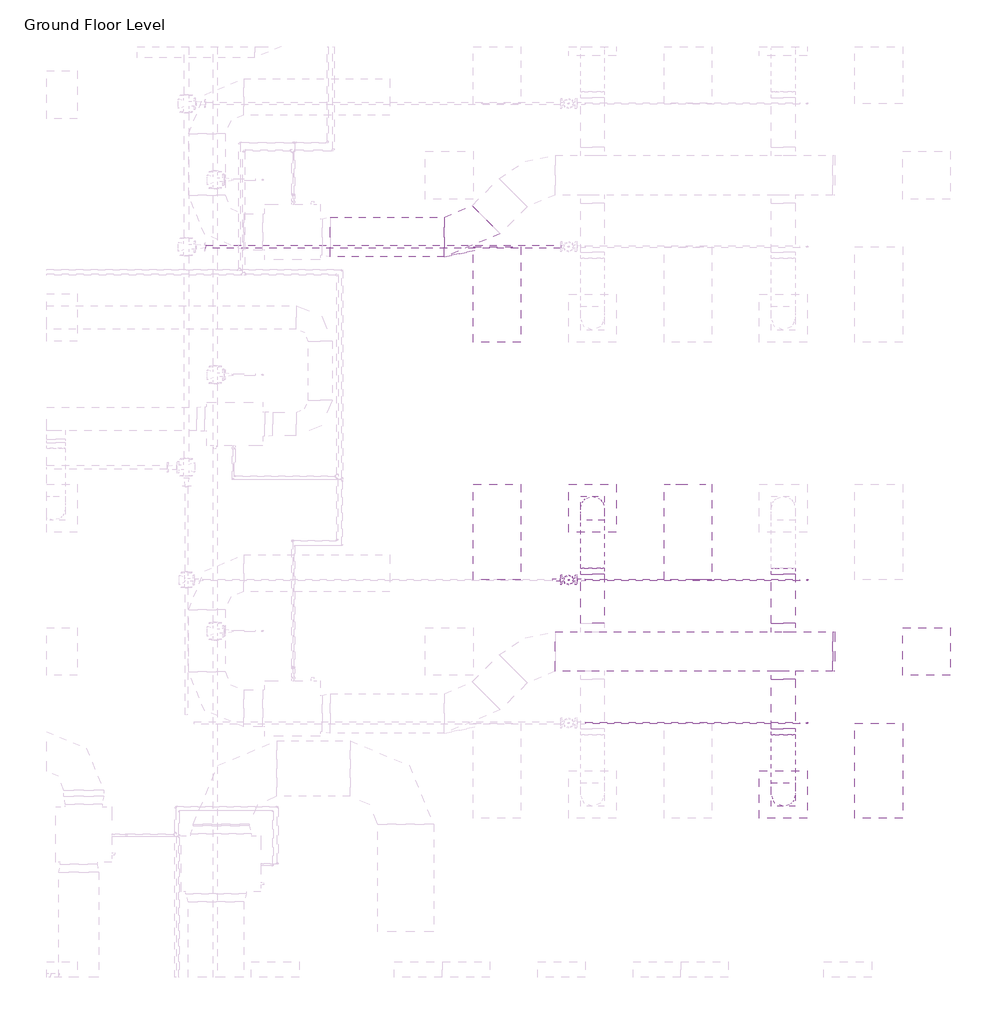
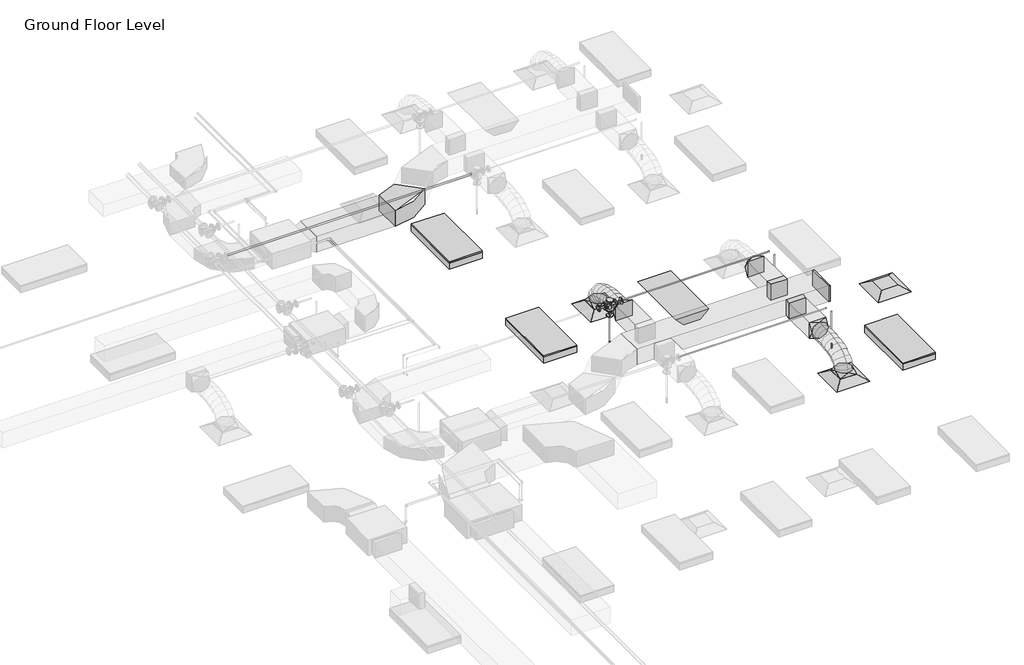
# One storey, part 37 of 74: 9 duct fittings, 7 duct segments, 6 pipe segments, 4 light fixtures, 4 pipe fittings, 3 air terminals, 3 fire suppression terminals.
"""IFC4 building model written with IfcOpenShell, lengths in millimetres."""

from ifc_helpers import new_model, si_unit, point, frame, frame_2d, origin, place, context, project, spatial, polyline, circle_curve, ellipse_curve, trimmed, segment, composite_curve, outline, extrude, transform, mapped, element, save
from ifc_brep_helpers import plane_surface, cylinder_surface, advanced_brep
from components import m_return_diffuser_600_x_600_face_300_x_300_connection_ff221211, m_rectangular_elbow_radius_1_5_w_acc56c25, m_rectangular_endcap_standard_72d4d00d, m_rectangular_takeoff_standard_cb0ccb98, m_rectangular_takeoff_standard_2be5eba1, m_rectangular_to_round_transition_angle_45_degree_641efff0, m_sprinkler_dry_pendent_hosted_15_mm_dry_pendent_9bda8e11, m_emergency_recessed_lighting_fixture_600x1200_277_5b10b25d, m_troffer_light_parabolic_rectangular1_0600x1200mm_4_lamp_86473d4a, m_reducer_flanged_cs_class_150_standard_ccf252ad, m_tee_round_base_flanged_cs_class_150_standard_7e5987a1

model = new_model("IFC4")

# Units and contexts
model_context = context("Model", 3, world=origin())
ifc_project = project(units=[si_unit("LENGTHUNIT", "METRE", prefix="MILLI")], contexts=[model_context])

# Site, building, storey
site = spatial("IfcSite", under=ifc_project)
building = spatial("IfcBuilding", under=site)
storey = spatial("IfcBuildingStorey", under=building, Name="Ground Floor Level", Elevation=900.0)

# Air terminals
placement = place(None, origin())
m_return_diffuser_600_x_600_face_300_x_300_connection_shape = m_return_diffuser_600_x_600_face_300_x_300_connection_ff221211(model_context)
element("IfcAirTerminal", 1, ObjectType="M_Return Diffuser : 600 x 600 Face 300 x 300 Connection", at=placement, inside=storey, context=model_context, shape_type="MappedRepresentation", body=[
    mapped(m_return_diffuser_600_x_600_face_300_x_300_connection_shape, transform((14942.7672395, -5264.7846466, 3650.0), x_axis=(1.0, 0.0, 0.0), y_axis=(0.0, 1.0, 0.0), z_axis=(0.0, 0.0, 1.0))),
])
element("IfcAirTerminal", 2, ObjectType="M_Supply Diffuser : 600 x 600 Face 300 x 300 Connection", at=placement, inside=storey, context=model_context, shape_type="MappedRepresentation", body=[
    mapped(m_return_diffuser_600_x_600_face_300_x_300_connection_shape, transform((10742.7672395, -3464.7846466, 3650.0), x_axis=(1.0, 0.0, 0.0), y_axis=(0.0, 1.0, 0.0), z_axis=(0.0, 0.0, 1.0))),
])
element("IfcAirTerminal", 3, ObjectType="M_Supply Diffuser : 600 x 600 Face 300 x 300 Connection", at=placement, inside=storey, context=model_context, shape_type="MappedRepresentation", body=[
    mapped(m_return_diffuser_600_x_600_face_300_x_300_connection_shape, transform((13142.7672395, -7064.7846466, 3650.0), x_axis=(1.0, 0.0, 0.0), y_axis=(0.0, 1.0, 0.0), z_axis=(0.0, 0.0, 1.0))),
])

# Duct fittings
m_rectangular_elbow_radius_1_5_w_shape = m_rectangular_elbow_radius_1_5_w_acc56c25(model_context)
element("IfcDuctFitting", 4, ObjectType="M_Rectangular Elbow - Radius : 1.5 W", at=placement, inside=storey, context=model_context, shape_type="MappedRepresentation", body=[
    mapped(m_rectangular_elbow_radius_1_5_w_shape, transform((9187.6927358, -53.8220473, 4100.0047224), x_axis=(0.9999999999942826, 0.0, -3.3815582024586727e-06), y_axis=(-9.063610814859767e-12, 0.9999999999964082, -2.680306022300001e-06), z_axis=(3.3815582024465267e-06, 2.6803060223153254e-06, 0.9999999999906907))),
])
m_rectangular_endcap_standard_shape = m_rectangular_endcap_standard_72d4d00d(model_context)
element("IfcDuctFitting", 5, ObjectType="M_Rectangular Endcap : Standard", at=placement, inside=storey, context=model_context, shape_type="MappedRepresentation", body=[
    mapped(m_rectangular_endcap_standard_shape, transform((13766.7301365, -5264.7846466, 4100.0), x_axis=(1.0, 0.0, 0.0), y_axis=(0.0, 1.0, 0.0), z_axis=(0.0, 0.0, 1.0))),
])
m_rectangular_takeoff_standard_shape = m_rectangular_takeoff_standard_cb0ccb98(model_context)
element("IfcDuctFitting", 6, ObjectType="M_Rectangular Takeoff : Standard", at=placement, inside=storey, context=model_context, shape_type="MappedRepresentation", body=[
    mapped(m_rectangular_takeoff_standard_shape, transform((13142.7672395, -5014.7846466, 4100.0), x_axis=(0.0, 1.0, 0.0), y_axis=(1.0, 0.0, 0.0), z_axis=(0.0, 0.0, -1.0))),
])
m_rectangular_takeoff_standard_2_shape = m_rectangular_takeoff_standard_2be5eba1(model_context)
element("IfcDuctFitting", 7, ObjectType="M_Rectangular Takeoff : Standard", at=placement, inside=storey, context=model_context, shape_type="MappedRepresentation", body=[
    mapped(m_rectangular_takeoff_standard_2_shape, transform((13142.7672395, -5514.7846466, 4100.0), x_axis=(0.0, -1.0, 0.0), y_axis=(-1.0, 0.0, 0.0), z_axis=(0.0, 0.0, -1.0))),
])
m_rectangular_to_round_transition_angle_45_degree_shape = m_rectangular_to_round_transition_angle_45_degree_641efff0(model_context)
element("IfcDuctFitting", 8, ObjectType="M_Rectangular to Round Transition - Angle : 45 Degree", at=placement, inside=storey, context=model_context, shape_type="MappedRepresentation", body=[
    mapped(m_rectangular_to_round_transition_angle_45_degree_shape, transform((13142.7672395, -7064.7846466, 3751.6), x_axis=(0.0, 0.0, 1.0), y_axis=(-1.0, 0.0, 0.0), z_axis=(0.0, -1.0, 0.0))),
])
element("IfcDuctFitting", 9, ObjectType="M_Rectangular to Round Transition - Angle : 45 Degree", at=placement, inside=storey, context=model_context, shape_type="MappedRepresentation", body=[
    mapped(m_rectangular_to_round_transition_angle_45_degree_shape, transform((13142.7672395, -6237.4487153, 4100.0), x_axis=(0.0, -1.0, 0.0), y_axis=(1.0, 0.0, 0.0), z_axis=(0.0, 0.0, 1.0))),
])
element("IfcDuctFitting", 10, ObjectType="M_Rectangular to Round Transition - Angle : 45 Degree", at=placement, inside=storey, context=model_context, shape_type="MappedRepresentation", body=[
    mapped(m_rectangular_to_round_transition_angle_45_degree_shape, transform((13142.7672395, -4292.1205779, 4100.0), x_axis=(0.0, 1.0, 0.0), y_axis=(-1.0, 0.0, 0.0), z_axis=(0.0, 0.0, 1.0))),
])
element("IfcDuctFitting", 11, ObjectType="M_Rectangular to Round Transition - Angle : 45 Degree", at=placement, inside=storey, context=model_context, shape_type="MappedRepresentation", body=[
    mapped(m_rectangular_to_round_transition_angle_45_degree_shape, transform((10742.7672395, -3464.7846466, 3751.6), x_axis=(0.0, 0.0, 1.0), y_axis=(-1.0, 0.0, 0.0), z_axis=(0.0, -1.0, 0.0))),
])
element("IfcDuctFitting", 12, ObjectType="M_Rectangular to Round Transition - Angle : 45 Degree", at=placement, inside=storey, context=model_context, shape_type="MappedRepresentation", body=[
    mapped(m_rectangular_to_round_transition_angle_45_degree_shape, transform((10742.7672395, -4292.1205779, 4100.0), x_axis=(0.0, 1.0, 0.0), y_axis=(-1.0, 0.0, 0.0), z_axis=(0.0, 0.0, 1.0))),
])

# Duct segments
element("IfcDuctSegment", 13, ObjectType="Flex - Round", at=placement, inside=storey, context=model_context, shape_type="AdvancedBrep", body=[
    advanced_brep(
    [(13292.7672395, -7064.7846466, 3826.6), (13142.7672395, -7214.7846466, 3826.6), (12992.7672395, -7064.7846466, 3826.6), (13142.7672395, -6914.7846466, 3826.6), (13292.7672395, -7064.7846466, 3857.9377114), (13142.7672395, -7214.7846466, 3883.5809337), (12992.7672395, -7064.7846466, 3857.9377114), (13142.7672395, -6914.7846466, 3832.2944892), (13292.7672395, -7047.7687141, 3906.2505728), (13142.7672395, -7181.506693, 3978.0660967), (12992.7672395, -7047.7687141, 3906.2505728), (13142.7672395, -6914.0307351, 3834.435049), (13292.7672395, -7000.5848337, 3968.7113131), (13142.7672395, -7104.7907329, 4079.6206026), (12992.7672395, -7000.5848337, 3968.7113131), (13142.7672395, -6896.3789345, 3857.8020236), (13292.7672395, -6929.0288815, 4016.0700639), (13142.7672395, -6997.9629372, 4150.3237489), (12992.7672395, -6929.0288815, 4016.0700639), (13142.7672395, -6860.0948259, 3881.8163788), (13292.7672395, -6838.8967335, 4050.4146682), (13142.7672395, -6882.4574967, 4194.3367758), (12992.7672395, -6838.8967335, 4050.4146682), (13142.7672395, -6795.3359704, 3906.4925606), (13292.7672395, -6735.9842657, 4073.8329691), (13142.7672395, -6762.5451897, 4221.6234841), (12992.7672395, -6735.9842657, 4073.8329691), (13142.7672395, -6709.4233417, 3926.0424542), (13292.7672395, -6626.087354, 4088.4128097), (13142.7672395, -6641.2382563, 4237.7170733), (12992.7672395, -6626.087354, 4088.4128097), (13142.7672395, -6610.9364516, 3939.1085462), (13292.7672395, -6515.0018743, 4096.242033), (13142.7672395, -6522.5072025, 4246.085151), (12992.7672395, -6515.0018743, 4096.242033), (13142.7672395, -6507.4965462, 3946.398915), (13292.7672395, -6408.5237028, 4099.4084821), (13142.7672395, -6411.2151959, 4249.394754), (12992.7672395, -6408.5237028, 4099.4084821), (13142.7672395, -6405.8322097, 3949.4222102), (13292.7672395, -6312.4487153, 4100.0), (13142.7672395, -6311.5252075, 3950.0028429), (12992.7672395, -6312.4487153, 4100.0), (13142.7672395, -6313.3722232, 4249.9971571)],
    [
        (0, 1, circle_curve(frame((13142.7672395, -7064.7846466, 3826.6), z_axis=(0.0, 0.0, -1.0), x_axis=(1.0, 0.0, 0.0)), 150.0)),
        (1, 2, circle_curve(frame((13142.7672395, -7064.7846466, 3826.6), z_axis=(0.0, 0.0, -1.0), x_axis=(1.0, 0.0, 0.0)), 150.0)),
        (2, 3, circle_curve(frame((13142.7672395, -7064.7846466, 3826.6), z_axis=(0.0, 0.0, -1.0), x_axis=(1.0, 0.0, 0.0)), 150.0)),
        (3, 0, circle_curve(frame((13142.7672395, -7064.7846466, 3826.6), z_axis=(0.0, 0.0, -1.0), x_axis=(1.0, 0.0, 0.0)), 150.0)),
        (0, 4),
        (4, 5, ellipse_curve(frame((13142.7672395, -7064.7846466, 3857.9377114), z_axis=(0.0, -0.16851014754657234, -0.9856999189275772), x_axis=(0.0, 0.9856999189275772, -0.1685101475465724)), 152.176131, 150.0)),
        (5, 1),
        (5, 6, ellipse_curve(frame((13142.7672395, -7064.7846466, 3857.9377114), z_axis=(0.0, -0.16851014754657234, -0.9856999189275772), x_axis=(0.0, 0.9856999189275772, -0.1685101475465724)), 152.176131, 150.0)),
        (6, 2),
        (6, 7, ellipse_curve(frame((13142.7672395, -7064.7846466, 3857.9377114), z_axis=(0.0, -0.16851014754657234, -0.9856999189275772), x_axis=(0.0, 0.9856999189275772, -0.1685101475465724)), 152.176131, 150.0)),
        (7, 3),
        (7, 4, ellipse_curve(frame((13142.7672395, -7064.7846466, 3857.9377114), z_axis=(0.0, -0.16851014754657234, -0.9856999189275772), x_axis=(0.0, 0.9856999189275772, -0.1685101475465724)), 152.176131, 150.0)),
        (4, 8),
        (8, 9, ellipse_curve(frame((13142.7672395, -7047.7687141, 3906.2505728), z_axis=(0.0, -0.47309225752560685, -0.8810128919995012), x_axis=(0.0, 0.881012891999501, -0.4730922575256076)), 151.8002519, 150.0)),
        (9, 5),
        (9, 10, ellipse_curve(frame((13142.7672395, -7047.7687141, 3906.2505728), z_axis=(0.0, -0.47309225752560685, -0.8810128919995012), x_axis=(0.0, 0.881012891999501, -0.4730922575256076)), 151.8002519, 150.0)),
        (10, 6),
        (10, 11, ellipse_curve(frame((13142.7672395, -7047.7687141, 3906.2505728), z_axis=(0.0, -0.47309225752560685, -0.8810128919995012), x_axis=(0.0, 0.881012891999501, -0.4730922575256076)), 151.8002519, 150.0)),
        (11, 7),
        (11, 8, ellipse_curve(frame((13142.7672395, -7047.7687141, 3906.2505728), z_axis=(0.0, -0.47309225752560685, -0.8810128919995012), x_axis=(0.0, 0.881012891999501, -0.4730922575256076)), 151.8002519, 150.0)),
        (8, 12),
        (12, 13, ellipse_curve(frame((13142.7672395, -7000.5848337, 3968.7113131), z_axis=(0.0, -0.7287877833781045, -0.6847396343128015), x_axis=(0.0, 0.6847396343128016, -0.7287877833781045)), 152.1832446, 150.0)),
        (13, 9),
        (13, 14, ellipse_curve(frame((13142.7672395, -7000.5848337, 3968.7113131), z_axis=(0.0, -0.7287877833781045, -0.6847396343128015), x_axis=(0.0, 0.6847396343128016, -0.7287877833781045)), 152.1832446, 150.0)),
        (14, 10),
        (14, 15, ellipse_curve(frame((13142.7672395, -7000.5848337, 3968.7113131), z_axis=(0.0, -0.7287877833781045, -0.6847396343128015), x_axis=(0.0, 0.6847396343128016, -0.7287877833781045)), 152.1832446, 150.0)),
        (15, 11),
        (15, 12, ellipse_curve(frame((13142.7672395, -7000.5848337, 3968.7113131), z_axis=(0.0, -0.7287877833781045, -0.6847396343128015), x_axis=(0.0, 0.6847396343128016, -0.7287877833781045)), 152.1832446, 150.0)),
        (12, 16),
        (16, 17, ellipse_curve(frame((13142.7672395, -6929.0288815, 4016.0700639), z_axis=(0.0, -0.8895859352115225, -0.4567678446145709), x_axis=(0.0, 0.45676784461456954, -0.8895859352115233)), 150.91705, 150.0)),
        (17, 13),
        (17, 18, ellipse_curve(frame((13142.7672395, -6929.0288815, 4016.0700639), z_axis=(0.0, -0.8895859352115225, -0.4567678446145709), x_axis=(0.0, 0.45676784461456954, -0.8895859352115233)), 150.91705, 150.0)),
        (18, 14),
        (18, 19, ellipse_curve(frame((13142.7672395, -6929.0288815, 4016.0700639), z_axis=(0.0, -0.8895859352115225, -0.4567678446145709), x_axis=(0.0, 0.45676784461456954, -0.8895859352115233)), 150.91705, 150.0)),
        (19, 15),
        (19, 16, ellipse_curve(frame((13142.7672395, -6929.0288815, 4016.0700639), z_axis=(0.0, -0.8895859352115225, -0.4567678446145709), x_axis=(0.0, 0.45676784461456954, -0.8895859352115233)), 150.91705, 150.0)),
        (16, 20),
        (20, 21, ellipse_curve(frame((13142.7672395, -6838.8967335, 4050.4146682), z_axis=(0.0, -0.9571203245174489, -0.2896906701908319), x_axis=(0.0, 0.2896906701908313, -0.9571203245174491)), 150.369921, 150.0)),
        (21, 17),
        (21, 22, ellipse_curve(frame((13142.7672395, -6838.8967335, 4050.4146682), z_axis=(0.0, -0.9571203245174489, -0.2896906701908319), x_axis=(0.0, 0.2896906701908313, -0.9571203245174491)), 150.369921, 150.0)),
        (22, 18),
        (22, 23, ellipse_curve(frame((13142.7672395, -6838.8967335, 4050.4146682), z_axis=(0.0, -0.9571203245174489, -0.2896906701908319), x_axis=(0.0, 0.2896906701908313, -0.9571203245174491)), 150.369921, 150.0)),
        (23, 19),
        (23, 20, ellipse_curve(frame((13142.7672395, -6838.8967335, 4050.4146682), z_axis=(0.0, -0.9571203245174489, -0.2896906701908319), x_axis=(0.0, 0.2896906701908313, -0.9571203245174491)), 150.369921, 150.0)),
        (20, 24),
        (24, 25, ellipse_curve(frame((13142.7672395, -6735.9842657, 4073.8329691), z_axis=(0.0, -0.9842313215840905, -0.17688613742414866), x_axis=(0.0, 0.17688613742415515, -0.9842313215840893)), 150.1583131, 150.0)),
        (25, 21),
        (25, 26, ellipse_curve(frame((13142.7672395, -6735.9842657, 4073.8329691), z_axis=(0.0, -0.9842313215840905, -0.17688613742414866), x_axis=(0.0, 0.17688613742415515, -0.9842313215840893)), 150.1583131, 150.0)),
        (26, 22),
        (26, 27, ellipse_curve(frame((13142.7672395, -6735.9842657, 4073.8329691), z_axis=(0.0, -0.9842313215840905, -0.17688613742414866), x_axis=(0.0, 0.17688613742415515, -0.9842313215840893)), 150.1583131, 150.0)),
        (27, 23),
        (27, 24, ellipse_curve(frame((13142.7672395, -6735.9842657, 4073.8329691), z_axis=(0.0, -0.9842313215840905, -0.17688613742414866), x_axis=(0.0, 0.17688613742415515, -0.9842313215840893)), 150.1583131, 150.0)),
        (24, 28),
        (28, 29, ellipse_curve(frame((13142.7672395, -6626.087354, 4088.4128097), z_axis=(0.0, -0.9948906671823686, -0.10095821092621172), x_axis=(0.0, 0.10095821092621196, -0.9948906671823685)), 150.0710264, 150.0)),
        (29, 25),
        (29, 30, ellipse_curve(frame((13142.7672395, -6626.087354, 4088.4128097), z_axis=(0.0, -0.9948906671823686, -0.10095821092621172), x_axis=(0.0, 0.10095821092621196, -0.9948906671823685)), 150.0710264, 150.0)),
        (30, 26),
        (30, 31, ellipse_curve(frame((13142.7672395, -6626.087354, 4088.4128097), z_axis=(0.0, -0.9948906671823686, -0.10095821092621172), x_axis=(0.0, 0.10095821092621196, -0.9948906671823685)), 150.0710264, 150.0)),
        (31, 27),
        (31, 28, ellipse_curve(frame((13142.7672395, -6626.087354, 4088.4128097), z_axis=(0.0, -0.9948906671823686, -0.10095821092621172), x_axis=(0.0, 0.10095821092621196, -0.9948906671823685)), 150.0710264, 150.0)),
        (28, 32),
        (32, 33, ellipse_curve(frame((13142.7672395, -6515.0018743, 4096.242033), z_axis=(0.0, -0.9987479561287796, -0.050025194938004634), x_axis=(0.0, 0.050025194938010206, -0.9987479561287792)), 150.0309634, 150.0)),
        (33, 29),
        (33, 34, ellipse_curve(frame((13142.7672395, -6515.0018743, 4096.242033), z_axis=(0.0, -0.9987479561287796, -0.050025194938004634), x_axis=(0.0, 0.050025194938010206, -0.9987479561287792)), 150.0309634, 150.0)),
        (34, 30),
        (34, 35, ellipse_curve(frame((13142.7672395, -6515.0018743, 4096.242033), z_axis=(0.0, -0.9987479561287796, -0.050025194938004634), x_axis=(0.0, 0.050025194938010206, -0.9987479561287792)), 150.0309634, 150.0)),
        (35, 31),
        (35, 32, ellipse_curve(frame((13142.7672395, -6515.0018743, 4096.242033), z_axis=(0.0, -0.9987479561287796, -0.050025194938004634), x_axis=(0.0, 0.050025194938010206, -0.9987479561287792)), 150.0309634, 150.0)),
        (32, 36),
        (36, 37, ellipse_curve(frame((13142.7672395, -6408.5237028, 4099.4084821), z_axis=(0.0, -0.9998390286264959, -0.01794204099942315), x_axis=(0.0, 0.01794204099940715, -0.9998390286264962)), 150.0104193, 150.0)),
        (37, 33),
        (37, 38, ellipse_curve(frame((13142.7672395, -6408.5237028, 4099.4084821), z_axis=(0.0, -0.9998390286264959, -0.01794204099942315), x_axis=(0.0, 0.01794204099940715, -0.9998390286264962)), 150.0104193, 150.0)),
        (38, 34),
        (38, 39, ellipse_curve(frame((13142.7672395, -6408.5237028, 4099.4084821), z_axis=(0.0, -0.9998390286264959, -0.01794204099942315), x_axis=(0.0, 0.01794204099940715, -0.9998390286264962)), 150.0104193, 150.0)),
        (39, 35),
        (39, 36, ellipse_curve(frame((13142.7672395, -6408.5237028, 4099.4084821), z_axis=(0.0, -0.9998390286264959, -0.01794204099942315), x_axis=(0.0, 0.01794204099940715, -0.9998390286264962)), 150.0104193, 150.0)),
        (40, 41, circle_curve(frame((13142.7672395, -6312.4487153, 4100.0), z_axis=(0.0, 0.9999810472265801, 0.0061567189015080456), x_axis=(1.0, 0.0, 0.0)), 150.0)),
        (41, 42, circle_curve(frame((13142.7672395, -6312.4487153, 4100.0), z_axis=(0.0, 0.9999810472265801, 0.0061567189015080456), x_axis=(1.0, 0.0, 0.0)), 150.0)),
        (42, 43, circle_curve(frame((13142.7672395, -6312.4487153, 4100.0), z_axis=(0.0, 0.9999810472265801, 0.0061567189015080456), x_axis=(1.0, 0.0, 0.0)), 150.0)),
        (43, 40, circle_curve(frame((13142.7672395, -6312.4487153, 4100.0), z_axis=(0.0, 0.9999810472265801, 0.0061567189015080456), x_axis=(1.0, 0.0, 0.0)), 150.0)),
        (36, 40),
        (43, 37),
        (42, 38),
        (41, 39),
    ],
    [
        plane_surface(frame((13142.7672395, -7214.7846466, 3826.6), z_axis=(0.0, 0.0, -1.0), x_axis=(1.0, 0.0, 0.0))),
        cylinder_surface(frame((13142.7672395, -7064.7846466, 3826.6), z_axis=(0.0, 0.0, -1.0), x_axis=(1.0, 0.0, 0.0)), 150.0),
        cylinder_surface(frame((13142.7672395, -7064.7846466, 3857.9377114), z_axis=(0.0, -0.3322008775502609, -0.9432086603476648), x_axis=(1.0, 0.0, 0.0)), 150.0),
        cylinder_surface(frame((13142.7672395, -7047.7687141, 3906.2505728), z_axis=(0.0, -0.602762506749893, -0.7979206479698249), x_axis=(1.0, 0.0, 0.0)), 150.0),
        cylinder_surface(frame((13142.7672395, -7000.5848337, 3968.7113131), z_axis=(0.0, -0.833902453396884, -0.5519118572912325), x_axis=(1.0, 0.0, 0.0)), 150.0),
        cylinder_surface(frame((13142.7672395, -6929.0288815, 4016.0700639), z_axis=(0.0, -0.934458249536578, -0.35607271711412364), x_axis=(1.0, 0.0, 0.0)), 150.0),
        cylinder_surface(frame((13142.7672395, -6838.8967335, 4050.4146682), z_axis=(0.0, -0.9750732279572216, -0.22188330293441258), x_axis=(1.0, 0.0, 0.0)), 150.0),
        cylinder_surface(frame((13142.7672395, -6735.9842657, 4073.8329691), z_axis=(0.0, -0.9913140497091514, -0.1315159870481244), x_axis=(1.0, 0.0, 0.0)), 150.0),
        cylinder_surface(frame((13142.7672395, -6626.087354, 4088.4128097), z_axis=(0.0, -0.9975255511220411, -0.07030487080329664), x_axis=(1.0, 0.0, 0.0)), 150.0),
        cylinder_surface(frame((13142.7672395, -6515.0018743, 4096.242033), z_axis=(0.0, -0.9995581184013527, -0.029724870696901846), x_axis=(1.0, 0.0, 0.0)), 150.0),
        plane_surface(frame((13142.7672395, -6313.3722232, 4249.9971571), z_axis=(0.0, 0.9999810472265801, 0.0061567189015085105), x_axis=(1.0, 0.0, 0.0))),
        cylinder_surface(frame((13142.7672395, -6408.5237028, 4099.4084821), z_axis=(0.0, -0.9999810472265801, -0.0061567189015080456), x_axis=(1.0, 0.0, 0.0)), 150.0),
    ],
    [
        (0, [[1, 2, 3, 4]]),
        (1, [[-1, 5, 6, 7]]),
        (1, [[-2, -7, 8, 9]]),
        (1, [[-3, -9, 10, 11]]),
        (1, [[-4, -11, 12, -5]]),
        (2, [[-6, 13, 14, 15]]),
        (2, [[-8, -15, 16, 17]]),
        (2, [[-10, -17, 18, 19]]),
        (2, [[-12, -19, 20, -13]]),
        (3, [[-14, 21, 22, 23]]),
        (3, [[-16, -23, 24, 25]]),
        (3, [[-18, -25, 26, 27]]),
        (3, [[-20, -27, 28, -21]]),
        (4, [[-22, 29, 30, 31]]),
        (4, [[-24, -31, 32, 33]]),
        (4, [[-26, -33, 34, 35]]),
        (4, [[-28, -35, 36, -29]]),
        (5, [[-30, 37, 38, 39]]),
        (5, [[-32, -39, 40, 41]]),
        (5, [[-34, -41, 42, 43]]),
        (5, [[-36, -43, 44, -37]]),
        (6, [[-38, 45, 46, 47]]),
        (6, [[-40, -47, 48, 49]]),
        (6, [[-42, -49, 50, 51]]),
        (6, [[-44, -51, 52, -45]]),
        (7, [[-46, 53, 54, 55]]),
        (7, [[-48, -55, 56, 57]]),
        (7, [[-50, -57, 58, 59]]),
        (7, [[-52, -59, 60, -53]]),
        (8, [[-54, 61, 62, 63]]),
        (8, [[-56, -63, 64, 65]]),
        (8, [[-58, -65, 66, 67]]),
        (8, [[-60, -67, 68, -61]]),
        (9, [[-62, 69, 70, 71]]),
        (9, [[-64, -71, 72, 73]]),
        (9, [[-66, -73, 74, 75]]),
        (9, [[-68, -75, 76, -69]]),
        (10, [[77, 78, 79, 80]]),
        (11, [[-70, 81, -80, 82]]),
        (11, [[-72, -82, -79, 83]]),
        (11, [[-74, -83, -78, 84]]),
        (11, [[-76, -84, -77, -81]]),
    ],
),
])
element("IfcDuctSegment", 14, ObjectType="Flex - Round", at=placement, inside=storey, context=model_context, shape_type="AdvancedBrep", body=[
    advanced_brep(
    [(10892.7672395, -3464.7846466, 3826.6), (10742.7672395, -3614.7846466, 3826.6), (10592.7672395, -3464.7846466, 3826.6), (10742.7672395, -3314.7846466, 3826.6), (10892.7672395, -3464.7846466, 3857.9377114), (10742.7672395, -3614.7846466, 3832.2944892), (10592.7672395, -3464.7846466, 3857.9377114), (10742.7672395, -3314.7846466, 3883.5809337), (10892.7672395, -3481.8005792, 3906.2505728), (10742.7672395, -3615.5385581, 3834.435049), (10592.7672395, -3481.8005792, 3906.2505728), (10742.7672395, -3348.0626002, 3978.0660967), (10892.7672395, -3528.9844595, 3968.7113131), (10742.7672395, -3633.1903588, 3857.8020236), (10592.7672395, -3528.9844595, 3968.7113131), (10742.7672395, -3424.7785603, 4079.6206026), (10892.7672395, -3600.5404117, 4016.0700639), (10742.7672395, -3669.4744673, 3881.8163788), (10592.7672395, -3600.5404117, 4016.0700639), (10742.7672395, -3531.606356, 4150.3237489), (10892.7672395, -3690.6725597, 4050.4146682), (10742.7672395, -3734.2333228, 3906.4925606), (10592.7672395, -3690.6725597, 4050.4146682), (10742.7672395, -3647.1117965, 4194.3367758), (10892.7672395, -3793.5850275, 4073.8329691), (10742.7672395, -3820.1459515, 3926.0424542), (10592.7672395, -3793.5850275, 4073.8329691), (10742.7672395, -3767.0241035, 4221.6234841), (10892.7672395, -3903.4819392, 4088.4128097), (10742.7672395, -3918.6328416, 3939.1085462), (10592.7672395, -3903.4819392, 4088.4128097), (10742.7672395, -3888.3310369, 4237.7170733), (10892.7672395, -4014.5674189, 4096.242033), (10742.7672395, -4022.0727471, 3946.398915), (10592.7672395, -4014.5674189, 4096.242033), (10742.7672395, -4007.0620907, 4246.085151), (10892.7672395, -4121.0455904, 4099.4084821), (10742.7672395, -4123.7370835, 3949.4222102), (10592.7672395, -4121.0455904, 4099.4084821), (10742.7672395, -4118.3540973, 4249.394754), (10892.7672395, -4217.1205779, 4100.0), (10742.7672395, -4216.1970701, 4249.9971571), (10592.7672395, -4217.1205779, 4100.0), (10742.7672395, -4218.0440857, 3950.0028429)],
    [
        (0, 1, circle_curve(frame((10742.7672395, -3464.7846466, 3826.6), z_axis=(0.0, 0.0, -1.0), x_axis=(1.0, 0.0, 0.0)), 150.0)),
        (1, 2, circle_curve(frame((10742.7672395, -3464.7846466, 3826.6), z_axis=(0.0, 0.0, -1.0), x_axis=(1.0, 0.0, 0.0)), 150.0)),
        (2, 3, circle_curve(frame((10742.7672395, -3464.7846466, 3826.6), z_axis=(0.0, 0.0, -1.0), x_axis=(1.0, 0.0, 0.0)), 150.0)),
        (3, 0, circle_curve(frame((10742.7672395, -3464.7846466, 3826.6), z_axis=(0.0, 0.0, -1.0), x_axis=(1.0, 0.0, 0.0)), 150.0)),
        (0, 4),
        (4, 5, ellipse_curve(frame((10742.7672395, -3464.7846466, 3857.9377114), z_axis=(0.0, 0.16851014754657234, -0.9856999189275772), x_axis=(0.0, -0.9856999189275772, -0.1685101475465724)), 152.176131, 150.0)),
        (5, 1),
        (5, 6, ellipse_curve(frame((10742.7672395, -3464.7846466, 3857.9377114), z_axis=(0.0, 0.16851014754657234, -0.9856999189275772), x_axis=(0.0, -0.9856999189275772, -0.1685101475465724)), 152.176131, 150.0)),
        (6, 2),
        (6, 7, ellipse_curve(frame((10742.7672395, -3464.7846466, 3857.9377114), z_axis=(0.0, 0.16851014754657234, -0.9856999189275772), x_axis=(0.0, -0.9856999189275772, -0.1685101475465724)), 152.176131, 150.0)),
        (7, 3),
        (7, 4, ellipse_curve(frame((10742.7672395, -3464.7846466, 3857.9377114), z_axis=(0.0, 0.16851014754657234, -0.9856999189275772), x_axis=(0.0, -0.9856999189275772, -0.1685101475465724)), 152.176131, 150.0)),
        (4, 8),
        (8, 9, ellipse_curve(frame((10742.7672395, -3481.8005792, 3906.2505728), z_axis=(0.0, 0.47309225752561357, -0.8810128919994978), x_axis=(0.0, -0.8810128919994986, -0.47309225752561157)), 151.8002519, 150.0)),
        (9, 5),
        (9, 10, ellipse_curve(frame((10742.7672395, -3481.8005792, 3906.2505728), z_axis=(0.0, 0.47309225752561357, -0.8810128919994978), x_axis=(0.0, -0.8810128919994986, -0.47309225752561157)), 151.8002519, 150.0)),
        (10, 6),
        (10, 11, ellipse_curve(frame((10742.7672395, -3481.8005792, 3906.2505728), z_axis=(0.0, 0.47309225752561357, -0.8810128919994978), x_axis=(0.0, -0.8810128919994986, -0.47309225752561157)), 151.8002519, 150.0)),
        (11, 7),
        (11, 8, ellipse_curve(frame((10742.7672395, -3481.8005792, 3906.2505728), z_axis=(0.0, 0.47309225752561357, -0.8810128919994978), x_axis=(0.0, -0.8810128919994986, -0.47309225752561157)), 151.8002519, 150.0)),
        (8, 12),
        (12, 13, ellipse_curve(frame((10742.7672395, -3528.9844595, 3968.7113131), z_axis=(0.0, 0.7287877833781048, -0.6847396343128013), x_axis=(0.0, -0.6847396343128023, -0.7287877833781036)), 152.1832446, 150.0)),
        (13, 9),
        (13, 14, ellipse_curve(frame((10742.7672395, -3528.9844595, 3968.7113131), z_axis=(0.0, 0.7287877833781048, -0.6847396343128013), x_axis=(0.0, -0.6847396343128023, -0.7287877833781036)), 152.1832446, 150.0)),
        (14, 10),
        (14, 15, ellipse_curve(frame((10742.7672395, -3528.9844595, 3968.7113131), z_axis=(0.0, 0.7287877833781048, -0.6847396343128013), x_axis=(0.0, -0.6847396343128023, -0.7287877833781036)), 152.1832446, 150.0)),
        (15, 11),
        (15, 12, ellipse_curve(frame((10742.7672395, -3528.9844595, 3968.7113131), z_axis=(0.0, 0.7287877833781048, -0.6847396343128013), x_axis=(0.0, -0.6847396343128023, -0.7287877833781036)), 152.1832446, 150.0)),
        (12, 16),
        (16, 17, ellipse_curve(frame((10742.7672395, -3600.5404117, 4016.0700639), z_axis=(0.0, 0.8895859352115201, -0.45676784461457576), x_axis=(0.0, -0.45676784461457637, -0.8895859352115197)), 150.91705, 150.0)),
        (17, 13),
        (17, 18, ellipse_curve(frame((10742.7672395, -3600.5404117, 4016.0700639), z_axis=(0.0, 0.8895859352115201, -0.45676784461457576), x_axis=(0.0, -0.45676784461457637, -0.8895859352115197)), 150.91705, 150.0)),
        (18, 14),
        (18, 19, ellipse_curve(frame((10742.7672395, -3600.5404117, 4016.0700639), z_axis=(0.0, 0.8895859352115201, -0.45676784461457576), x_axis=(0.0, -0.45676784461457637, -0.8895859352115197)), 150.91705, 150.0)),
        (19, 15),
        (19, 16, ellipse_curve(frame((10742.7672395, -3600.5404117, 4016.0700639), z_axis=(0.0, 0.8895859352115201, -0.45676784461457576), x_axis=(0.0, -0.45676784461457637, -0.8895859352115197)), 150.91705, 150.0)),
        (16, 20),
        (20, 21, ellipse_curve(frame((10742.7672395, -3690.6725597, 4050.4146682), z_axis=(0.0, 0.9571203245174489, -0.2896906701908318), x_axis=(0.0, -0.28969067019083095, -0.9571203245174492)), 150.369921, 150.0)),
        (21, 17),
        (21, 22, ellipse_curve(frame((10742.7672395, -3690.6725597, 4050.4146682), z_axis=(0.0, 0.9571203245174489, -0.2896906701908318), x_axis=(0.0, -0.28969067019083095, -0.9571203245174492)), 150.369921, 150.0)),
        (22, 18),
        (22, 23, ellipse_curve(frame((10742.7672395, -3690.6725597, 4050.4146682), z_axis=(0.0, 0.9571203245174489, -0.2896906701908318), x_axis=(0.0, -0.28969067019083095, -0.9571203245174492)), 150.369921, 150.0)),
        (23, 19),
        (23, 20, ellipse_curve(frame((10742.7672395, -3690.6725597, 4050.4146682), z_axis=(0.0, 0.9571203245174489, -0.2896906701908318), x_axis=(0.0, -0.28969067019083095, -0.9571203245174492)), 150.369921, 150.0)),
        (20, 24),
        (24, 25, ellipse_curve(frame((10742.7672395, -3793.5850275, 4073.8329691), z_axis=(0.0, 0.9842313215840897, -0.17688613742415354), x_axis=(0.0, -0.1768861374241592, -0.9842313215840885)), 150.1583131, 150.0)),
        (25, 21),
        (25, 26, ellipse_curve(frame((10742.7672395, -3793.5850275, 4073.8329691), z_axis=(0.0, 0.9842313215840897, -0.17688613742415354), x_axis=(0.0, -0.1768861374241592, -0.9842313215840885)), 150.1583131, 150.0)),
        (26, 22),
        (26, 27, ellipse_curve(frame((10742.7672395, -3793.5850275, 4073.8329691), z_axis=(0.0, 0.9842313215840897, -0.17688613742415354), x_axis=(0.0, -0.1768861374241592, -0.9842313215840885)), 150.1583131, 150.0)),
        (27, 23),
        (27, 24, ellipse_curve(frame((10742.7672395, -3793.5850275, 4073.8329691), z_axis=(0.0, 0.9842313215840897, -0.17688613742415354), x_axis=(0.0, -0.1768861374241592, -0.9842313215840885)), 150.1583131, 150.0)),
        (24, 28),
        (28, 29, ellipse_curve(frame((10742.7672395, -3903.4819392, 4088.4128097), z_axis=(0.0, 0.9948906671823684, -0.10095821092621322), x_axis=(0.0, -0.10095821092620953, -0.9948906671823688)), 150.0710264, 150.0)),
        (29, 25),
        (29, 30, ellipse_curve(frame((10742.7672395, -3903.4819392, 4088.4128097), z_axis=(0.0, 0.9948906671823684, -0.10095821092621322), x_axis=(0.0, -0.10095821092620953, -0.9948906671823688)), 150.0710264, 150.0)),
        (30, 26),
        (30, 31, ellipse_curve(frame((10742.7672395, -3903.4819392, 4088.4128097), z_axis=(0.0, 0.9948906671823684, -0.10095821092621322), x_axis=(0.0, -0.10095821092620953, -0.9948906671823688)), 150.0710264, 150.0)),
        (31, 27),
        (31, 28, ellipse_curve(frame((10742.7672395, -3903.4819392, 4088.4128097), z_axis=(0.0, 0.9948906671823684, -0.10095821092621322), x_axis=(0.0, -0.10095821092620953, -0.9948906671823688)), 150.0710264, 150.0)),
        (28, 32),
        (32, 33, ellipse_curve(frame((10742.7672395, -4014.5674189, 4096.242033), z_axis=(0.0, 0.9987479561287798, -0.050025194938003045), x_axis=(0.0, -0.05002519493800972, -0.9987479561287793)), 150.0309634, 150.0)),
        (33, 29),
        (33, 34, ellipse_curve(frame((10742.7672395, -4014.5674189, 4096.242033), z_axis=(0.0, 0.9987479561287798, -0.050025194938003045), x_axis=(0.0, -0.05002519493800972, -0.9987479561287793)), 150.0309634, 150.0)),
        (34, 30),
        (34, 35, ellipse_curve(frame((10742.7672395, -4014.5674189, 4096.242033), z_axis=(0.0, 0.9987479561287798, -0.050025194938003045), x_axis=(0.0, -0.05002519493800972, -0.9987479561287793)), 150.0309634, 150.0)),
        (35, 31),
        (35, 32, ellipse_curve(frame((10742.7672395, -4014.5674189, 4096.242033), z_axis=(0.0, 0.9987479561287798, -0.050025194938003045), x_axis=(0.0, -0.05002519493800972, -0.9987479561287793)), 150.0309634, 150.0)),
        (32, 36),
        (36, 37, ellipse_curve(frame((10742.7672395, -4121.0455904, 4099.4084821), z_axis=(0.0, 0.9998390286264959, -0.017942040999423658), x_axis=(0.0, -0.017942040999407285, -0.9998390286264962)), 150.0104193, 150.0)),
        (37, 33),
        (37, 38, ellipse_curve(frame((10742.7672395, -4121.0455904, 4099.4084821), z_axis=(0.0, 0.9998390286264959, -0.017942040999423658), x_axis=(0.0, -0.017942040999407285, -0.9998390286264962)), 150.0104193, 150.0)),
        (38, 34),
        (38, 39, ellipse_curve(frame((10742.7672395, -4121.0455904, 4099.4084821), z_axis=(0.0, 0.9998390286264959, -0.017942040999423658), x_axis=(0.0, -0.017942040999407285, -0.9998390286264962)), 150.0104193, 150.0)),
        (39, 35),
        (39, 36, ellipse_curve(frame((10742.7672395, -4121.0455904, 4099.4084821), z_axis=(0.0, 0.9998390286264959, -0.017942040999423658), x_axis=(0.0, -0.017942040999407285, -0.9998390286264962)), 150.0104193, 150.0)),
        (40, 41, circle_curve(frame((10742.7672395, -4217.1205779, 4100.0), z_axis=(0.0, -0.9999810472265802, 0.006156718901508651), x_axis=(1.0, 0.0, 0.0)), 150.0)),
        (41, 42, circle_curve(frame((10742.7672395, -4217.1205779, 4100.0), z_axis=(0.0, -0.9999810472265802, 0.006156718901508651), x_axis=(1.0, 0.0, 0.0)), 150.0)),
        (42, 43, circle_curve(frame((10742.7672395, -4217.1205779, 4100.0), z_axis=(0.0, -0.9999810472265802, 0.006156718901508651), x_axis=(1.0, 0.0, 0.0)), 150.0)),
        (43, 40, circle_curve(frame((10742.7672395, -4217.1205779, 4100.0), z_axis=(0.0, -0.9999810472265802, 0.006156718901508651), x_axis=(1.0, 0.0, 0.0)), 150.0)),
        (36, 40),
        (43, 37),
        (42, 38),
        (41, 39),
    ],
    [
        plane_surface(frame((10742.7672395, -3614.7846466, 3826.6), z_axis=(0.0, 0.0, -1.0), x_axis=(1.0, 0.0, 0.0))),
        cylinder_surface(frame((10742.7672395, -3464.7846466, 3826.6), z_axis=(0.0, 0.0, -1.0), x_axis=(1.0, 0.0, 0.0)), 150.0),
        cylinder_surface(frame((10742.7672395, -3464.7846466, 3857.9377114), z_axis=(0.0, 0.3322008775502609, -0.9432086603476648), x_axis=(1.0, 0.0, 0.0)), 150.0),
        cylinder_surface(frame((10742.7672395, -3481.8005792, 3906.2505728), z_axis=(0.0, 0.6027625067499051, -0.7979206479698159), x_axis=(1.0, 0.0, 0.0)), 150.0),
        cylinder_surface(frame((10742.7672395, -3528.9844595, 3968.7113131), z_axis=(0.0, 0.833902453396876, -0.5519118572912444), x_axis=(1.0, 0.0, 0.0)), 150.0),
        cylinder_surface(frame((10742.7672395, -3600.5404117, 4016.0700639), z_axis=(0.0, 0.9344582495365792, -0.35607271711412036), x_axis=(1.0, 0.0, 0.0)), 150.0),
        cylinder_surface(frame((10742.7672395, -3690.6725597, 4050.4146682), z_axis=(0.0, 0.9750732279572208, -0.22188330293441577), x_axis=(1.0, 0.0, 0.0)), 150.0),
        cylinder_surface(frame((10742.7672395, -3793.5850275, 4073.8329691), z_axis=(0.0, 0.9913140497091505, -0.131515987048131), x_axis=(1.0, 0.0, 0.0)), 150.0),
        cylinder_surface(frame((10742.7672395, -3903.4819392, 4088.4128097), z_axis=(0.0, 0.9975255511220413, -0.07030487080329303), x_axis=(1.0, 0.0, 0.0)), 150.0),
        cylinder_surface(frame((10742.7672395, -4014.5674189, 4096.242033), z_axis=(0.0, 0.9995581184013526, -0.02972487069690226), x_axis=(1.0, 0.0, 0.0)), 150.0),
        plane_surface(frame((10742.7672395, -4218.0440857, 3950.0028429), z_axis=(0.0, -0.9999810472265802, 0.006156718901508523), x_axis=(1.0, 0.0, 0.0))),
        cylinder_surface(frame((10742.7672395, -4121.0455904, 4099.4084821), z_axis=(0.0, 0.9999810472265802, -0.006156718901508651), x_axis=(1.0, 0.0, 0.0)), 150.0),
    ],
    [
        (0, [[1, 2, 3, 4]]),
        (1, [[-1, 5, 6, 7]]),
        (1, [[-2, -7, 8, 9]]),
        (1, [[-3, -9, 10, 11]]),
        (1, [[-4, -11, 12, -5]]),
        (2, [[-6, 13, 14, 15]]),
        (2, [[-8, -15, 16, 17]]),
        (2, [[-10, -17, 18, 19]]),
        (2, [[-12, -19, 20, -13]]),
        (3, [[-14, 21, 22, 23]]),
        (3, [[-16, -23, 24, 25]]),
        (3, [[-18, -25, 26, 27]]),
        (3, [[-20, -27, 28, -21]]),
        (4, [[-22, 29, 30, 31]]),
        (4, [[-24, -31, 32, 33]]),
        (4, [[-26, -33, 34, 35]]),
        (4, [[-28, -35, 36, -29]]),
        (5, [[-30, 37, 38, 39]]),
        (5, [[-32, -39, 40, 41]]),
        (5, [[-34, -41, 42, 43]]),
        (5, [[-36, -43, 44, -37]]),
        (6, [[-38, 45, 46, 47]]),
        (6, [[-40, -47, 48, 49]]),
        (6, [[-42, -49, 50, 51]]),
        (6, [[-44, -51, 52, -45]]),
        (7, [[-46, 53, 54, 55]]),
        (7, [[-48, -55, 56, 57]]),
        (7, [[-50, -57, 58, 59]]),
        (7, [[-52, -59, 60, -53]]),
        (8, [[-54, 61, 62, 63]]),
        (8, [[-56, -63, 64, 65]]),
        (8, [[-58, -65, 66, 67]]),
        (8, [[-60, -67, 68, -61]]),
        (9, [[-62, 69, 70, 71]]),
        (9, [[-64, -71, 72, 73]]),
        (9, [[-66, -73, 74, 75]]),
        (9, [[-68, -75, 76, -69]]),
        (10, [[77, 78, 79, 80]]),
        (11, [[-70, 81, -80, 82]]),
        (11, [[-72, -82, -79, 83]]),
        (11, [[-74, -83, -78, 84]]),
        (11, [[-76, -84, -77, -81]]),
    ],
),
])
element("IfcDuctSegment", 15, ObjectType="Radius Elbows / Taps", at=placement, inside=storey, context=model_context, shape_type="SweptSolid", body=[
    extrude(outline(polyline([(7447.693178, -303.8220473), (7447.693178, 196.1779527), (8877.032564, 196.1779527), (8877.032564, -303.8220473), (7447.693178, -303.8220473)])), frame((0.0, 0.0, 3950.0057729), z_axis=(0.0, 0.0, 1.0), x_axis=(1.0, 0.0, 0.0)), (0.0, 0.0, 1.0), 300.0),
])
element("IfcDuctSegment", 16, ObjectType="Radius Elbows / Taps", at=placement, inside=storey, context=model_context, shape_type="SweptSolid", body=[
    extrude(outline(polyline([(10277.3903083, -5514.7846466), (10277.3903083, -5014.7846466), (13766.7301365, -5014.7846466), (13766.7301365, -5514.7846466), (10277.3903083, -5514.7846466)])), frame((0.0, 0.0, 3950.0), z_axis=(0.0, 0.0, 1.0), x_axis=(1.0, 0.0, 0.0)), (0.0, 0.0, 1.0), 300.0),
])
element("IfcDuctSegment", 17, ObjectType="Radius Elbows / Taps", at=placement, inside=storey, context=model_context, shape_type="SweptSolid", body=[
    extrude(outline(polyline([(10892.7672395, -4913.1846466), (10592.7672395, -4913.1846466), (10592.7672395, -4292.1205779), (10892.7672395, -4292.1205779), (10892.7672395, -4913.1846466)])), frame((0.0, 0.0, 3950.0), z_axis=(0.0, 0.0, 1.0), x_axis=(1.0, 0.0, 0.0)), (0.0, 0.0, 1.0), 300.0),
])
element("IfcDuctSegment", 18, ObjectType="Radius Elbows / Taps", at=placement, inside=storey, context=model_context, shape_type="SweptSolid", body=[
    extrude(outline(polyline([(13292.7672395, -4913.1846466), (12992.7672395, -4913.1846466), (12992.7672395, -4292.1205779), (13292.7672395, -4292.1205779), (13292.7672395, -4913.1846466)])), frame((0.0, 0.0, 3950.0), z_axis=(0.0, 0.0, 1.0), x_axis=(1.0, 0.0, 0.0)), (0.0, 0.0, 1.0), 300.0),
])
element("IfcDuctSegment", 19, ObjectType="Radius Elbows / Taps", at=placement, inside=storey, context=model_context, shape_type="SweptSolid", body=[
    extrude(outline(polyline([(12992.7672395, -5616.3846466), (13292.7672395, -5616.3846466), (13292.7672395, -6237.4487153), (12992.7672395, -6237.4487153), (12992.7672395, -5616.3846466)])), frame((0.0, 0.0, 3950.0), z_axis=(0.0, 0.0, 1.0), x_axis=(1.0, 0.0, 0.0)), (0.0, 0.0, 1.0), 300.0),
])

# Fire suppression terminals
m_sprinkler_dry_pendent_hosted_15_mm_dry_pendent_shape = m_sprinkler_dry_pendent_hosted_15_mm_dry_pendent_9bda8e11(model_context)
element("IfcFireSuppressionTerminal", 20, ObjectType="M_Sprinkler - Dry - Pendent - Hosted : 15 mm Dry Pendent", at=placement, inside=storey, context=model_context, shape_type="MappedRepresentation", body=[
    mapped(m_sprinkler_dry_pendent_hosted_15_mm_dry_pendent_shape, transform((10442.7672395, -4364.7846466, 3650.0), x_axis=(1.0, 0.0, 0.0), y_axis=(0.0, -1.0, 0.0), z_axis=(0.0, 0.0, -1.0))),
])
element("IfcFireSuppressionTerminal", 21, ObjectType="M_Sprinkler - Dry - Pendent - Hosted : 15 mm Dry Pendent", at=placement, inside=storey, context=model_context, shape_type="MappedRepresentation", body=[
    mapped(m_sprinkler_dry_pendent_hosted_15_mm_dry_pendent_shape, transform((13442.7672395, -4364.7846466, 3650.0), x_axis=(1.0, 0.0, 0.0), y_axis=(0.0, -1.0, 0.0), z_axis=(0.0, 0.0, -1.0))),
])
element("IfcFireSuppressionTerminal", 22, ObjectType="M_Sprinkler - Dry - Pendent - Hosted : 15 mm Dry Pendent", at=placement, inside=storey, context=model_context, shape_type="MappedRepresentation", body=[
    mapped(m_sprinkler_dry_pendent_hosted_15_mm_dry_pendent_shape, transform((13442.7672395, -6164.7846466, 3650.0), x_axis=(1.0, 0.0, 0.0), y_axis=(0.0, -1.0, 0.0), z_axis=(0.0, 0.0, -1.0))),
])

# Light fixtures
m_emergency_recessed_lighting_fixture_600x1200_277_shape = m_emergency_recessed_lighting_fixture_600x1200_277_5b10b25d(model_context)
element("IfcLightFixture", 23, ObjectType="M_Emergency Recessed Lighting Fixture : 600x1200 - 277", at=placement, inside=storey, context=model_context, shape_type="MappedRepresentation", body=[
    mapped(m_emergency_recessed_lighting_fixture_600x1200_277_shape, transform((11642.7672395, -4364.7846466, 3650.0), x_axis=(0.0, 1.0, 0.0), y_axis=(-1.0, 0.0, 0.0), z_axis=(0.0, 0.0, 1.0))),
])
m_troffer_light_parabolic_rectangular1_0600x1200mm_4_lamp_shape = m_troffer_light_parabolic_rectangular1_0600x1200mm_4_lamp_86473d4a(model_context)
element("IfcLightFixture", 24, ObjectType="M_Troffer Light - Parabolic Rectangular1 : 0600x1200mm(4 Lamp) - 277V 2", at=placement, inside=storey, context=model_context, shape_type="MappedRepresentation", body=[
    mapped(m_troffer_light_parabolic_rectangular1_0600x1200mm_4_lamp_shape, transform((9483.3013074, -756.081145, 3650.0), x_axis=(0.0, 1.0, 0.0), y_axis=(-1.0, 0.0, 0.0), z_axis=(0.0, 0.0, 1.0))),
])
element("IfcLightFixture", 25, ObjectType="M_Troffer Light - Parabolic Rectangular1 : 0600x1200mm(4 Lamp) - 277V 2", at=placement, inside=storey, context=model_context, shape_type="MappedRepresentation", body=[
    mapped(m_troffer_light_parabolic_rectangular1_0600x1200mm_4_lamp_shape, transform((9483.3013074, -3746.081145, 3650.0), x_axis=(0.0, 1.0, 0.0), y_axis=(-1.0, 0.0, 0.0), z_axis=(0.0, 0.0, 1.0))),
])
element("IfcLightFixture", 26, ObjectType="M_Troffer Light - Parabolic Rectangular1 : 0600x1200mm(4 Lamp) - 277V 2", at=placement, inside=storey, context=model_context, shape_type="MappedRepresentation", body=[
    mapped(m_troffer_light_parabolic_rectangular1_0600x1200mm_4_lamp_shape, transform((14283.3013074, -6746.081145, 3650.0), x_axis=(0.0, 1.0, 0.0), y_axis=(-1.0, 0.0, 0.0), z_axis=(0.0, 0.0, 1.0))),
])

# Pipe fittings
m_reducer_flanged_cs_class_150_standard_shape = m_reducer_flanged_cs_class_150_standard_ccf252ad(model_context)
element("IfcPipeFitting", 27, ObjectType="M_Reducer - Flanged - CS - Class 150 : Standard", at=placement, inside=storey, context=model_context, shape_type="MappedRepresentation", body=[
    mapped(m_reducer_flanged_cs_class_150_standard_shape, transform((10342.0586457, -4364.7846466, 4360.0), x_axis=(-1.0, 0.0, 0.0), y_axis=(0.0, 0.0, -1.0), z_axis=(0.0, -1.0, 0.0))),
])
element("IfcPipeFitting", 28, ObjectType="M_Reducer - Flanged - CS - Class 150 : Standard", at=placement, inside=storey, context=model_context, shape_type="MappedRepresentation", body=[
    mapped(m_reducer_flanged_cs_class_150_standard_shape, transform((10543.4758332, -4364.7846466, 4360.0), x_axis=(1.0, 0.0, 0.0), y_axis=(0.0, 0.0, 1.0), z_axis=(0.0, -1.0, 0.0))),
])
element("IfcPipeFitting", 29, ObjectType="M_Reducer - Flanged - CS - Class 150 : Standard", at=placement, inside=storey, context=model_context, shape_type="MappedRepresentation", body=[
    mapped(m_reducer_flanged_cs_class_150_standard_shape, transform((10442.7672395, -4364.7846466, 4259.2914062), x_axis=(0.0, 0.0, -1.0), y_axis=(-1.0, 0.0, 0.0), z_axis=(0.0, 1.0, 0.0))),
])
m_tee_round_base_flanged_cs_class_150_standard_shape = m_tee_round_base_flanged_cs_class_150_standard_7e5987a1(model_context)
element("IfcPipeFitting", 30, ObjectType="M_Tee Round Base - Flanged - CS - Class 150 : Standard", at=placement, inside=storey, context=model_context, shape_type="MappedRepresentation", body=[
    mapped(m_tee_round_base_flanged_cs_class_150_standard_shape, transform((10442.7672395, -4364.7846466, 4360.0), x_axis=(1.0, 0.0, 0.0), y_axis=(0.0, 0.0, 1.0), z_axis=(0.0, -1.0, 0.0))),
])

# Pipe segments
element("IfcPipeSegment", 31, ObjectType="Steel flanged", at=placement, inside=storey, context=model_context, shape_type="SweptSolid", body=[
    extrude(outline(composite_curve([segment(trimmed(circle_curve(frame_2d((13442.7672395, -4364.7846466)), 10.668), [point((13432.0992395, -4364.7846466))], [point((13442.7672395, -4354.1166466))], False, "CARTESIAN"), True, "CONTINUOUS"), segment(trimmed(circle_curve(frame_2d((13442.7672395, -4364.7846466)), 10.668), [point((13442.7672395, -4354.1166466))], [point((13453.4352395, -4364.7846466))], False, "CARTESIAN"), True, "CONTINUOUS"), segment(trimmed(circle_curve(frame_2d((13442.7672395, -4364.7846466)), 10.668), [point((13453.4352395, -4364.7846466))], [point((13442.7672395, -4375.4526466))], False, "CARTESIAN"), True, "CONTINUOUS"), segment(trimmed(circle_curve(frame_2d((13442.7672395, -4364.7846466)), 10.668), [point((13442.7672395, -4375.4526466))], [point((13432.0992395, -4364.7846466))], False, "CARTESIAN"), True, "CONTINUOUS")], self_intersect=False)), frame((0.0, 0.0, 3650.0), z_axis=(0.0, 0.0, 1.0), x_axis=(1.0, 0.0, 0.0)), (0.0, 0.0, 1.0), 616.9914062),
])
element("IfcPipeSegment", 32, ObjectType="Steel flanged", at=placement, inside=storey, context=model_context, shape_type="SweptSolid", body=[
    extrude(outline(composite_curve([segment(trimmed(circle_curve(frame_2d((13442.7672395, -6164.7846466)), 10.668), [point((13432.0992395, -6164.7846466))], [point((13442.7672395, -6154.1166466))], False, "CARTESIAN"), True, "CONTINUOUS"), segment(trimmed(circle_curve(frame_2d((13442.7672395, -6164.7846466)), 10.668), [point((13442.7672395, -6154.1166466))], [point((13453.4352395, -6164.7846466))], False, "CARTESIAN"), True, "CONTINUOUS"), segment(trimmed(circle_curve(frame_2d((13442.7672395, -6164.7846466)), 10.668), [point((13453.4352395, -6164.7846466))], [point((13442.7672395, -6175.4526466))], False, "CARTESIAN"), True, "CONTINUOUS"), segment(trimmed(circle_curve(frame_2d((13442.7672395, -6164.7846466)), 10.668), [point((13442.7672395, -6175.4526466))], [point((13432.0992395, -6164.7846466))], False, "CARTESIAN"), True, "CONTINUOUS")], self_intersect=False)), frame((0.0, 0.0, 3650.0), z_axis=(0.0, 0.0, 1.0), x_axis=(1.0, 0.0, 0.0)), (0.0, 0.0, 1.0), 616.9914063),
])
element("IfcPipeSegment", 33, ObjectType="Steel flanged", at=placement, inside=storey, context=model_context, shape_type="SweptSolid", body=[
    extrude(outline(composite_curve([segment(trimmed(circle_curve(frame_2d((-174.7846466, 4360.0)), 16.7005), [point((-158.0841466, 4360.0))], [point((-174.7846466, 4343.2995))], False, "CARTESIAN"), True, "CONTINUOUS"), segment(trimmed(circle_curve(frame_2d((-174.7846466, 4360.0)), 16.7005), [point((-174.7846466, 4343.2995))], [point((-191.4851466, 4360.0))], False, "CARTESIAN"), True, "CONTINUOUS"), segment(trimmed(circle_curve(frame_2d((-174.7846466, 4360.0)), 16.7005), [point((-191.4851466, 4360.0))], [point((-174.7846466, 4376.7005))], False, "CARTESIAN"), True, "CONTINUOUS"), segment(trimmed(circle_curve(frame_2d((-174.7846466, 4360.0)), 16.7005), [point((-174.7846466, 4376.7005))], [point((-158.0841466, 4360.0))], False, "CARTESIAN"), True, "CONTINUOUS")], self_intersect=False)), frame((5876.869498, 0.0, 0.0), z_axis=(1.0, 0.0, 0.0), x_axis=(0.0, 1.0, 0.0)), (0.0, 0.0, 1.0), 4465.1891477),
])
element("IfcPipeSegment", 34, ObjectType="Steel flanged", at=placement, inside=storey, context=model_context, shape_type="SweptSolid", body=[
    extrude(outline(composite_curve([segment(trimmed(circle_curve(frame_2d((10442.7672395, -4364.7846466)), 10.668), [point((10432.0992395, -4364.7846466))], [point((10442.7672395, -4354.1166466))], False, "CARTESIAN"), True, "CONTINUOUS"), segment(trimmed(circle_curve(frame_2d((10442.7672395, -4364.7846466)), 10.668), [point((10442.7672395, -4354.1166466))], [point((10453.4352395, -4364.7846466))], False, "CARTESIAN"), True, "CONTINUOUS"), segment(trimmed(circle_curve(frame_2d((10442.7672395, -4364.7846466)), 10.668), [point((10453.4352395, -4364.7846466))], [point((10442.7672395, -4375.4526466))], False, "CARTESIAN"), True, "CONTINUOUS"), segment(trimmed(circle_curve(frame_2d((10442.7672395, -4364.7846466)), 10.668), [point((10442.7672395, -4375.4526466))], [point((10432.0992395, -4364.7846466))], False, "CARTESIAN"), True, "CONTINUOUS")], self_intersect=False)), frame((0.0, 0.0, 3650.0), z_axis=(0.0, 0.0, 1.0), x_axis=(1.0, 0.0, 0.0)), (0.0, 0.0, 1.0), 495.2914062),
])
element("IfcPipeSegment", 35, ObjectType="Steel flanged", at=placement, inside=storey, context=model_context, shape_type="SweptSolid", body=[
    extrude(outline(composite_curve([segment(trimmed(circle_curve(frame_2d((-4364.7846466, 4360.0)), 10.668), [point((-4354.1166466, 4360.0))], [point((-4364.7846466, 4349.332))], False, "CARTESIAN"), True, "CONTINUOUS"), segment(trimmed(circle_curve(frame_2d((-4364.7846466, 4360.0)), 10.668), [point((-4364.7846466, 4349.332))], [point((-4375.4526466, 4360.0))], False, "CARTESIAN"), True, "CONTINUOUS"), segment(trimmed(circle_curve(frame_2d((-4364.7846466, 4360.0)), 10.668), [point((-4375.4526466, 4360.0))], [point((-4364.7846466, 4370.668))], False, "CARTESIAN"), True, "CONTINUOUS"), segment(trimmed(circle_curve(frame_2d((-4364.7846466, 4360.0)), 10.668), [point((-4364.7846466, 4370.668))], [point((-4354.1166466, 4360.0))], False, "CARTESIAN"), True, "CONTINUOUS")], self_intersect=False)), frame((10657.4758332, 0.0, 0.0), z_axis=(1.0, 0.0, 0.0), x_axis=(0.0, 1.0, 0.0)), (0.0, 0.0, 1.0), 2692.2828125),
])
element("IfcPipeSegment", 36, ObjectType="Steel flanged", at=placement, inside=storey, context=model_context, shape_type="SweptSolid", body=[
    extrude(outline(composite_curve([segment(trimmed(circle_curve(frame_2d((-6164.7846466, 4360.0)), 10.668), [point((-6154.1166466, 4360.0))], [point((-6164.7846466, 4349.332))], False, "CARTESIAN"), True, "CONTINUOUS"), segment(trimmed(circle_curve(frame_2d((-6164.7846466, 4360.0)), 10.668), [point((-6164.7846466, 4349.332))], [point((-6175.4526466, 4360.0))], False, "CARTESIAN"), True, "CONTINUOUS"), segment(trimmed(circle_curve(frame_2d((-6164.7846466, 4360.0)), 10.668), [point((-6175.4526466, 4360.0))], [point((-6164.7846466, 4370.668))], False, "CARTESIAN"), True, "CONTINUOUS"), segment(trimmed(circle_curve(frame_2d((-6164.7846466, 4360.0)), 10.668), [point((-6164.7846466, 4370.668))], [point((-6154.1166466, 4360.0))], False, "CARTESIAN"), True, "CONTINUOUS")], self_intersect=False)), frame((10657.4758332, 0.0, 0.0), z_axis=(1.0, 0.0, 0.0), x_axis=(0.0, 1.0, 0.0)), (0.0, 0.0, 1.0), 2692.2828125),
])

save(model, "model.ifc")
